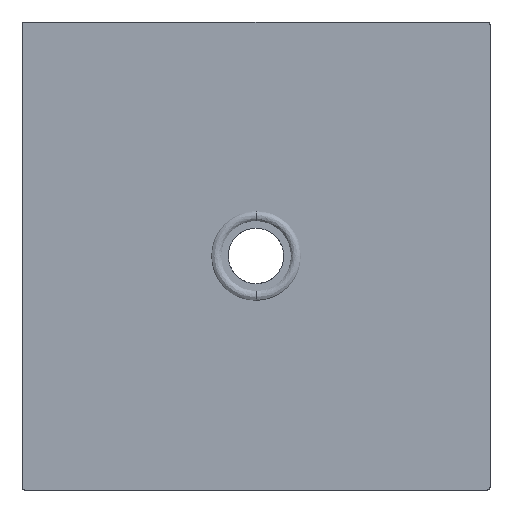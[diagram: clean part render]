
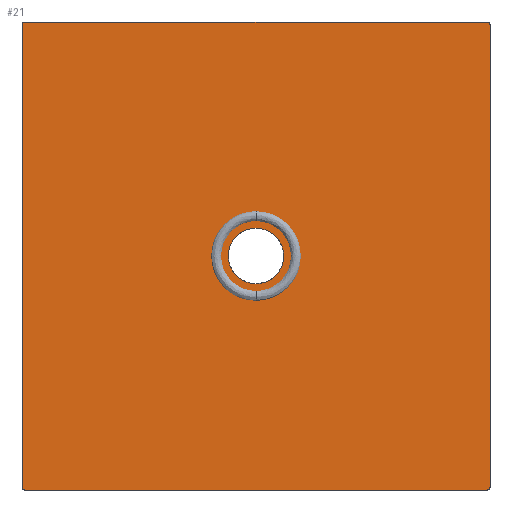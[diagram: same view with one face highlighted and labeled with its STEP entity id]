
A CAD part, front view. The second image highlights one B-rep face of the part: STEP entity #21.
In plain terms, the highlighted planar face has unit normal (0, -1, 0).
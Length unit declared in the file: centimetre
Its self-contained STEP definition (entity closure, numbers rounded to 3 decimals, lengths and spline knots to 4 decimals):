
#21=ADVANCED_FACE('',(#65,#58),#602,.T.);
#58=FACE_BOUND('',#109,.T.);
#65=FACE_OUTER_BOUND('',#108,.T.);
#108=EDGE_LOOP('',(#179,#180,#181,#182,#183,#184,#185,#186));
#109=EDGE_LOOP('',(#187,#188));
#179=ORIENTED_EDGE('',*,*,#359,.F.);
#180=ORIENTED_EDGE('',*,*,#331,.F.);
#181=ORIENTED_EDGE('',*,*,#367,.F.);
#182=ORIENTED_EDGE('',*,*,#330,.F.);
#183=ORIENTED_EDGE('',*,*,#371,.F.);
#184=ORIENTED_EDGE('',*,*,#333,.F.);
#185=ORIENTED_EDGE('',*,*,#363,.F.);
#186=ORIENTED_EDGE('',*,*,#332,.F.);
#187=ORIENTED_EDGE('',*,*,#326,.T.);
#188=ORIENTED_EDGE('',*,*,#325,.T.);
#325=EDGE_CURVE('',#515,#516,#437,.T.);
#326=EDGE_CURVE('',#516,#515,#438,.T.);
#330=EDGE_CURVE('',#524,#519,#418,.T.);
#331=EDGE_CURVE('',#530,#525,#419,.T.);
#332=EDGE_CURVE('',#534,#535,#420,.T.);
#333=EDGE_CURVE('',#542,#537,#421,.T.);
#359=EDGE_CURVE('',#525,#534,#459,.T.);
#363=EDGE_CURVE('',#535,#542,#461,.T.);
#367=EDGE_CURVE('',#519,#530,#463,.T.);
#371=EDGE_CURVE('',#537,#524,#465,.T.);
#418=B_SPLINE_CURVE_WITH_KNOTS('',1,(#1841,#1842),.UNSPECIFIED.,.F.,.F.,
(2,2),(0.,1.),.UNSPECIFIED.);
#419=B_SPLINE_CURVE_WITH_KNOTS('',1,(#1843,#1844),.UNSPECIFIED.,.F.,.F.,
(2,2),(0.,1.),.UNSPECIFIED.);
#420=B_SPLINE_CURVE_WITH_KNOTS('',1,(#1845,#1846),.UNSPECIFIED.,.F.,.F.,
(2,2),(0.,1.),.UNSPECIFIED.);
#421=B_SPLINE_CURVE_WITH_KNOTS('',1,(#1847,#1848),.UNSPECIFIED.,.F.,.F.,
(2,2),(0.,1.),.UNSPECIFIED.);
#437=(
BOUNDED_CURVE()
B_SPLINE_CURVE(2,(#1819,#1820,#1821,#1822,#1823),.UNSPECIFIED.,.F.,.F.)
B_SPLINE_CURVE_WITH_KNOTS((3,2,3),(-0.1492,-0.0746,
0.),.UNSPECIFIED.)
CURVE()
GEOMETRIC_REPRESENTATION_ITEM()
RATIONAL_B_SPLINE_CURVE((1.,0.707,1.,0.707,1.))
REPRESENTATION_ITEM('')
);
#438=(
BOUNDED_CURVE()
B_SPLINE_CURVE(2,(#1824,#1825,#1826,#1827,#1828),.UNSPECIFIED.,.F.,.F.)
B_SPLINE_CURVE_WITH_KNOTS((3,2,3),(-0.2985,-0.2238,
-0.1492),.UNSPECIFIED.)
CURVE()
GEOMETRIC_REPRESENTATION_ITEM()
RATIONAL_B_SPLINE_CURVE((1.,0.707,1.,0.707,1.))
REPRESENTATION_ITEM('')
);
#459=(
BOUNDED_CURVE()
B_SPLINE_CURVE(2,(#2209,#2210,#2211),.UNSPECIFIED.,.F.,.F.)
B_SPLINE_CURVE_WITH_KNOTS((3,3),(5.4983,7.0681),
 .UNSPECIFIED.)
CURVE()
GEOMETRIC_REPRESENTATION_ITEM()
RATIONAL_B_SPLINE_CURVE((1.,0.707,1.))
REPRESENTATION_ITEM('')
);
#461=(
BOUNDED_CURVE()
B_SPLINE_CURVE(2,(#2219,#2220,#2221),.UNSPECIFIED.,.F.,.F.)
B_SPLINE_CURVE_WITH_KNOTS((3,3),(5.4983,7.0681),
 .UNSPECIFIED.)
CURVE()
GEOMETRIC_REPRESENTATION_ITEM()
RATIONAL_B_SPLINE_CURVE((1.,0.707,1.))
REPRESENTATION_ITEM('')
);
#463=(
BOUNDED_CURVE()
B_SPLINE_CURVE(2,(#2229,#2230,#2231),.UNSPECIFIED.,.F.,.F.)
B_SPLINE_CURVE_WITH_KNOTS((3,3),(5.4983,7.0681),
 .UNSPECIFIED.)
CURVE()
GEOMETRIC_REPRESENTATION_ITEM()
RATIONAL_B_SPLINE_CURVE((1.,0.707,1.))
REPRESENTATION_ITEM('')
);
#465=(
BOUNDED_CURVE()
B_SPLINE_CURVE(2,(#2239,#2240,#2241),.UNSPECIFIED.,.F.,.F.)
B_SPLINE_CURVE_WITH_KNOTS((3,3),(5.4983,7.0681),
 .UNSPECIFIED.)
CURVE()
GEOMETRIC_REPRESENTATION_ITEM()
RATIONAL_B_SPLINE_CURVE((1.,0.707,1.))
REPRESENTATION_ITEM('')
);
#515=VERTEX_POINT('',#1773);
#516=VERTEX_POINT('',#1774);
#519=VERTEX_POINT('',#1777);
#524=VERTEX_POINT('',#1782);
#525=VERTEX_POINT('',#1783);
#530=VERTEX_POINT('',#1788);
#534=VERTEX_POINT('',#1792);
#535=VERTEX_POINT('',#1793);
#537=VERTEX_POINT('',#1795);
#542=VERTEX_POINT('',#1800);
#602=PLANE('',#628);
#628=AXIS2_PLACEMENT_3D('',#656,#637,$);
#637=DIRECTION('',(0.,-1.,0.));
#656=CARTESIAN_POINT('',(-0.41,0.,-0.41));
#1773=CARTESIAN_POINT('',(0.,0.,0.0475));
#1774=CARTESIAN_POINT('',(0.,0.,-0.0475));
#1777=CARTESIAN_POINT('',(0.4,0.,-0.395));
#1782=CARTESIAN_POINT('',(0.4,0.,0.395));
#1783=CARTESIAN_POINT('',(-0.395,0.,-0.4));
#1788=CARTESIAN_POINT('',(0.395,0.,-0.4));
#1792=CARTESIAN_POINT('',(-0.4,0.,-0.395));
#1793=CARTESIAN_POINT('',(-0.4,0.,0.395));
#1795=CARTESIAN_POINT('',(0.395,0.,0.4));
#1800=CARTESIAN_POINT('',(-0.395,0.,0.4));
#1819=CARTESIAN_POINT('',(0.,0.,0.0475));
#1820=CARTESIAN_POINT('',(0.0475,0.,0.0475));
#1821=CARTESIAN_POINT('',(0.0475,0.,0.));
#1822=CARTESIAN_POINT('',(0.0475,0.,-0.0475));
#1823=CARTESIAN_POINT('',(0.,0.,-0.0475));
#1824=CARTESIAN_POINT('',(0.,0.,-0.0475));
#1825=CARTESIAN_POINT('',(-0.0475,0.,-0.0475));
#1826=CARTESIAN_POINT('',(-0.0475,0.,0.));
#1827=CARTESIAN_POINT('',(-0.0475,0.,0.0475));
#1828=CARTESIAN_POINT('',(0.,0.,0.0475));
#1841=CARTESIAN_POINT('',(0.4,0.,0.395));
#1842=CARTESIAN_POINT('',(0.4,0.,-0.395));
#1843=CARTESIAN_POINT('',(0.395,0.,-0.4));
#1844=CARTESIAN_POINT('',(-0.395,0.,-0.4));
#1845=CARTESIAN_POINT('',(-0.4,0.,-0.395));
#1846=CARTESIAN_POINT('',(-0.4,0.,0.395));
#1847=CARTESIAN_POINT('',(-0.395,0.,0.4));
#1848=CARTESIAN_POINT('',(0.395,0.,0.4));
#2209=CARTESIAN_POINT('',(-0.395,0.,-0.4));
#2210=CARTESIAN_POINT('',(-0.4,0.0002,-0.4));
#2211=CARTESIAN_POINT('',(-0.4,0.,-0.395));
#2219=CARTESIAN_POINT('',(-0.4,0.,0.395));
#2220=CARTESIAN_POINT('',(-0.4,0.0002,0.4));
#2221=CARTESIAN_POINT('',(-0.395,0.,0.4));
#2229=CARTESIAN_POINT('',(0.4,0.,-0.395));
#2230=CARTESIAN_POINT('',(0.4,0.0002,-0.4));
#2231=CARTESIAN_POINT('',(0.395,0.,-0.4));
#2239=CARTESIAN_POINT('',(0.395,0.,0.4));
#2240=CARTESIAN_POINT('',(0.4,0.0002,0.4));
#2241=CARTESIAN_POINT('',(0.4,0.,0.395));
